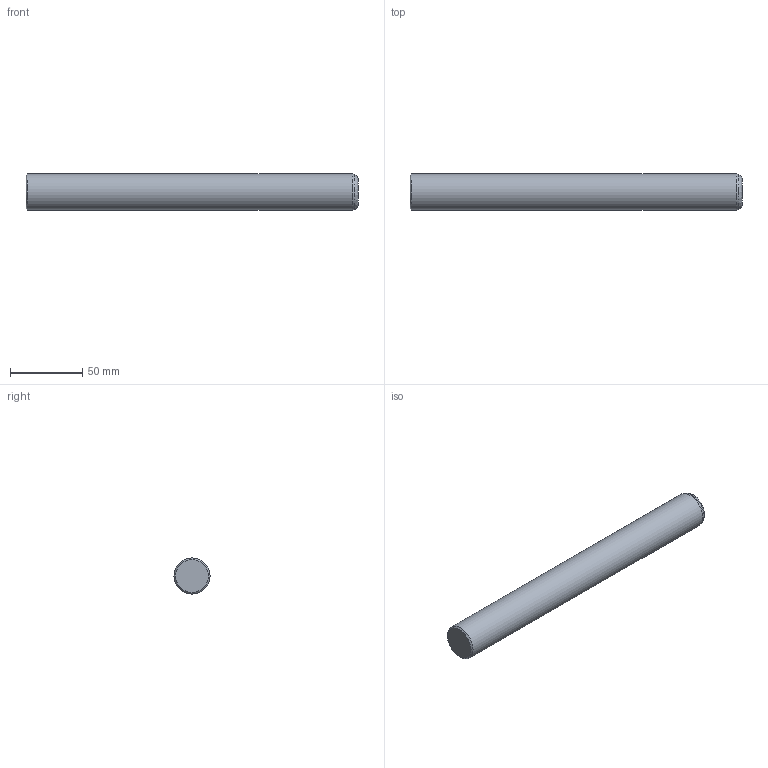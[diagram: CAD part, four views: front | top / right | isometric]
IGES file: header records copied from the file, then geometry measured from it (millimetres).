
Global section: file name: CIS25230.ipt; native system: Autodesk Inventor 2021; preprocessor: unknown; author: SM; date: 20211220.124337; units: millimetre
Bounding box: 230 x 25 x 25 mm (x, y, z)
Volume: 112635.8 mm3; surface area: 18866.2 mm2
Topology: 1 solids, 1 shells, 6 faces, 11 edges, 7 vertices
Faces by surface type: cone 2, plane 2, revolution 1, cylinder 1
Full cylindrical faces by diameter (mm): 25 x1
